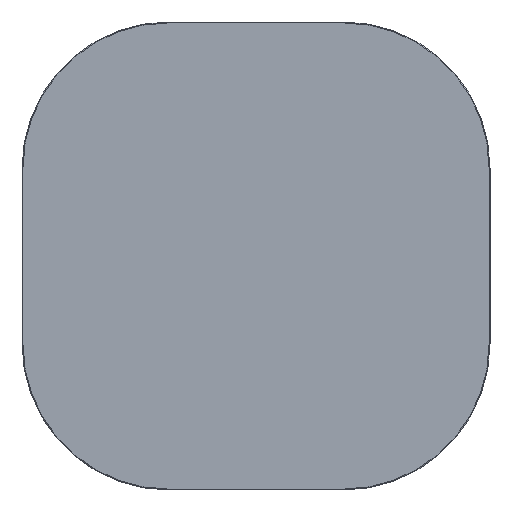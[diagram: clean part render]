
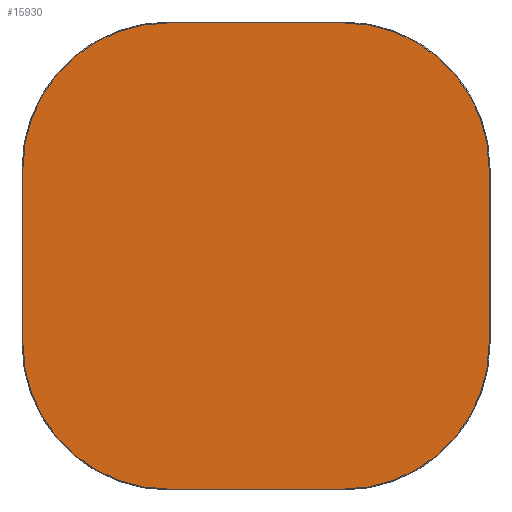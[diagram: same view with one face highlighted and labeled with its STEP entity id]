
A CAD part, top view. The second image highlights one B-rep face of the part: STEP entity #15930.
In plain terms, the highlighted planar face has unit normal (0, 0, 1).
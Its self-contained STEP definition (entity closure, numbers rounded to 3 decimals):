
#15855=CARTESIAN_POINT('',(0.,0.,20.));
#15856=DIRECTION('',(1.,0.,0.));
#15857=DIRECTION('',(0.,0.,1.));
#15858=AXIS2_PLACEMENT_3D('',#15855,#15857,#15856);
#15859=PLANE('',#15858);
#15860=CARTESIAN_POINT('',(-150.,-398.5,20.));
#15861=VERTEX_POINT('',#15860);
#15862=CARTESIAN_POINT('',(150.,-398.5,20.));
#15863=VERTEX_POINT('',#15862);
#15864=CARTESIAN_POINT('',(-150.,-398.5,20.));
#15865=DIRECTION('',(1.,0.,0.));
#15866=VECTOR('',#15865,300.);
#15867=LINE('',#15864,#15866);
#15868=EDGE_CURVE('',#15861,#15863,#15867,.T.);
#15869=ORIENTED_EDGE('E105',*,*,#15868,.T.);
#15870=CARTESIAN_POINT('',(398.5,-150.,20.));
#15871=VERTEX_POINT('',#15870);
#15872=CARTESIAN_POINT('',(150.,-150.,20.));
#15873=DIRECTION('',(0.,-1.,0.));
#15874=DIRECTION('',(0.,0.,1.));
#15875=AXIS2_PLACEMENT_3D('',#15872,#15874,#15873);
#15876=CIRCLE('',#15875,248.5);
#15877=EDGE_CURVE('',#15863,#15871,#15876,.T.);
#15878=ORIENTED_EDGE('E107',*,*,#15877,.T.);
#15879=CARTESIAN_POINT('',(398.5,150.,20.));
#15880=VERTEX_POINT('',#15879);
#15881=CARTESIAN_POINT('',(398.5,-150.,20.));
#15882=DIRECTION('',(0.,1.,0.));
#15883=VECTOR('',#15882,300.);
#15884=LINE('',#15881,#15883);
#15885=EDGE_CURVE('',#15871,#15880,#15884,.T.);
#15886=ORIENTED_EDGE('E109',*,*,#15885,.T.);
#15887=CARTESIAN_POINT('',(150.,398.5,20.));
#15888=VERTEX_POINT('',#15887);
#15889=CARTESIAN_POINT('',(150.,150.,20.));
#15890=DIRECTION('',(1.,0.,0.));
#15891=DIRECTION('',(0.,0.,1.));
#15892=AXIS2_PLACEMENT_3D('',#15889,#15891,#15890);
#15893=CIRCLE('',#15892,248.5);
#15894=EDGE_CURVE('',#15880,#15888,#15893,.T.);
#15895=ORIENTED_EDGE('E111',*,*,#15894,.T.);
#15896=CARTESIAN_POINT('',(-150.,398.5,20.));
#15897=VERTEX_POINT('',#15896);
#15898=CARTESIAN_POINT('',(150.,398.5,20.));
#15899=DIRECTION('',(-1.,0.,0.));
#15900=VECTOR('',#15899,300.);
#15901=LINE('',#15898,#15900);
#15902=EDGE_CURVE('',#15888,#15897,#15901,.T.);
#15903=ORIENTED_EDGE('E113',*,*,#15902,.T.);
#15904=CARTESIAN_POINT('',(-398.5,150.,20.));
#15905=VERTEX_POINT('',#15904);
#15906=CARTESIAN_POINT('',(-150.,150.,20.));
#15907=DIRECTION('',(0.,1.,0.));
#15908=DIRECTION('',(0.,0.,1.));
#15909=AXIS2_PLACEMENT_3D('',#15906,#15908,#15907);
#15910=CIRCLE('',#15909,248.5);
#15911=EDGE_CURVE('',#15897,#15905,#15910,.T.);
#15912=ORIENTED_EDGE('E115',*,*,#15911,.T.);
#15913=CARTESIAN_POINT('',(-398.5,-150.,20.));
#15914=VERTEX_POINT('',#15913);
#15915=CARTESIAN_POINT('',(-398.5,150.,20.));
#15916=DIRECTION('',(0.,-1.,0.));
#15917=VECTOR('',#15916,300.);
#15918=LINE('',#15915,#15917);
#15919=EDGE_CURVE('',#15905,#15914,#15918,.T.);
#15920=ORIENTED_EDGE('E117',*,*,#15919,.T.);
#15921=CARTESIAN_POINT('',(-150.,-150.,20.));
#15922=DIRECTION('',(-1.,0.,0.));
#15923=DIRECTION('',(-0.,0.,1.));
#15924=AXIS2_PLACEMENT_3D('',#15921,#15923,#15922);
#15925=CIRCLE('',#15924,248.5);
#15926=EDGE_CURVE('',#15914,#15861,#15925,.T.);
#15927=ORIENTED_EDGE('E119',*,*,#15926,.T.);
#15928=EDGE_LOOP('',(#15869,#15878,#15886,#15895,#15903,#15912,#15920,#15927));
#15929=FACE_OUTER_BOUND('',#15928,.T.);
#15930=ADVANCED_FACE('F2',(#15929),#15859,.T.);
